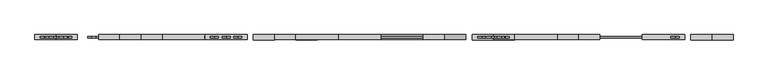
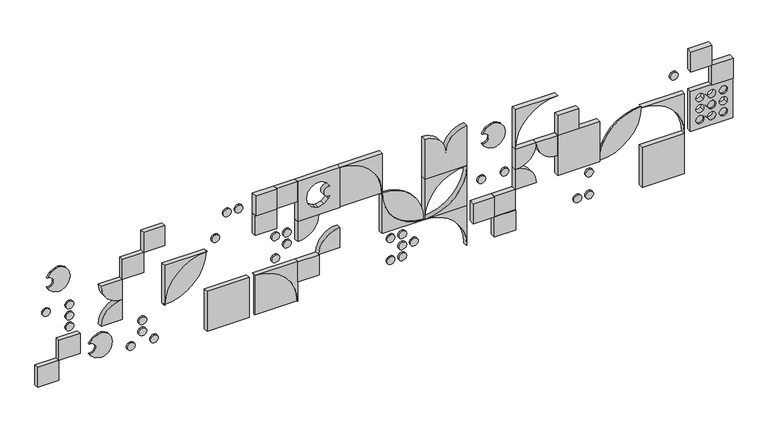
"""IFC4 building model written with IfcOpenShell, lengths in millimetres: proxy geometry, Modelos genéricos - (reduzido)PAINEL VAZADO - 90CM - (reduzido)PAINEL VAZADO - 90CM."""

from ifc_helpers import new_model, si_unit, point, frame, frame_2d, origin, place, context, project, spatial, polyline, circle_curve, trimmed, segment, composite_curve, outline, extrude, source, transform, mapped, element, save
from ifc_brep_helpers import plane_surface, revolved_surface, advanced_brep


def generic_models_b1f84769(model_context):
    return source(origin(), model_context, "Body", "SolidModel", [
        advanced_brep(
        [(6450.0, -50.0, 450.0), (6030.0, -50.0, 870.0), (6030.0, 0.0, 870.0), (6450.0, 0.0, 450.0), (6450.0, -50.0, 870.0), (6450.0, 0.0, 870.0)],
        [
            (0, 1, circle_curve(frame((6030.0, -50.0, 450.0), z_axis=(0.0, -1.0, 0.0), x_axis=(-1.0, 0.0, 0.0)), 420.0)),
            (1, 2),
            (2, 3, circle_curve(frame((6030.0, 0.0, 450.0), z_axis=(0.0, 1.0, 0.0), x_axis=(-1.0, 0.0, 0.0)), 420.0)),
            (3, 0),
            (4, 0),
            (3, 5),
            (5, 4),
            (1, 4),
            (5, 2),
        ],
        [
            revolved_surface(polyline([(5610.0, 0.0, 450.0), (5610.0, -50.0, 450.0)]), (6030.0, -50.0, 450.0), (0.0, 1.0, 0.0)),
            plane_surface(frame((6450.0, -50.0, 870.0), z_axis=(1.0, 0.0, 0.0), x_axis=(0.0, 0.0, -1.0))),
            plane_surface(frame((6030.0, -50.0, 870.0), z_axis=(0.0, 0.0, 1.0), x_axis=(1.0, 0.0, 0.0))),
            plane_surface(frame((6310.0, 0.0, 730.0), z_axis=(0.0, 1.0, 0.0), x_axis=(1.0, 0.0, 0.0))),
            plane_surface(frame((6310.0, -50.0, 730.0), z_axis=(0.0, -1.0, 0.0), x_axis=(1.0, 0.0, 0.0))),
        ],
        [
            (0, [[1, 2, 3, 4]]),
            (1, [[5, -4, 6, 7]]),
            (2, [[8, -7, 9, -2]]),
            (3, [[-9, -6, -3]]),
            (4, [[-8, -1, -5]]),
        ],
    ),
        extrude(outline(composite_curve([segment(polyline([(870.0, 5190.0), (870.0, 4980.0)]), True, "CONTINUOUS"), segment(trimmed(circle_curve(frame_2d((870.0, 5190.0)), 210.0), [point((870.0, 4980.0))], [point((660.0, 5190.0))], False, "CARTESIAN"), True, "CONTINUOUS"), segment(polyline([(660.0, 5190.0), (870.0, 5190.0)]), True, "CONTINUOUS")], self_intersect=False)), frame((0.0, -50.0, 0.0), z_axis=(0.0, 1.0, 0.0), x_axis=(0.0, 0.0, 1.0)), (0.0, 0.0, 1.0), 50.0),
        extrude(outline(composite_curve([segment(trimmed(circle_curve(frame_2d((355.9383616, 5515.9383616)), 40.0), [point((395.9383616, 5515.9383616))], [point((315.9383616, 5515.9383616))], False, "CARTESIAN"), True, "CONTINUOUS"), segment(trimmed(circle_curve(frame_2d((355.9383616, 5515.9383616)), 40.0), [point((315.9383616, 5515.9383616))], [point((395.9383616, 5515.9383616))], False, "CARTESIAN"), True, "CONTINUOUS")], self_intersect=False)), frame((0.0, -35.0, 0.0), z_axis=(0.0, 1.0, 0.0), x_axis=(0.0, 0.0, 1.0)), (0.0, 0.0, 1.0), 15.0),
        extrude(outline(composite_curve([segment(trimmed(circle_curve(frame_2d((544.953472, 2400.0)), 40.0), [point((584.953472, 2400.0))], [point((504.953472, 2400.0))], False, "CARTESIAN"), True, "CONTINUOUS"), segment(trimmed(circle_curve(frame_2d((544.953472, 2400.0)), 40.0), [point((504.953472, 2400.0))], [point((584.953472, 2400.0))], False, "CARTESIAN"), True, "CONTINUOUS")], self_intersect=False)), frame((0.0, -35.0, 0.0), z_axis=(0.0, 1.0, 0.0), x_axis=(0.0, 0.0, 1.0)), (0.0, 0.0, 1.0), 15.0),
        extrude(outline(composite_curve([segment(trimmed(circle_curve(frame_2d((660.0, 4444.0616384)), 40.0), [point((700.0, 4444.0616384))], [point((620.0, 4444.0616384))], False, "CARTESIAN"), True, "CONTINUOUS"), segment(trimmed(circle_curve(frame_2d((660.0, 4444.0616384)), 40.0), [point((620.0, 4444.0616384))], [point((700.0, 4444.0616384))], False, "CARTESIAN"), True, "CONTINUOUS")], self_intersect=False)), frame((0.0, -35.0, 0.0), z_axis=(0.0, 1.0, 0.0), x_axis=(0.0, 0.0, 1.0)), (0.0, 0.0, 1.0), 15.0),
        extrude(outline(composite_curve([segment(trimmed(circle_curve(frame_2d((450.0, 870.0)), 210.0), [point((660.0, 870.0))], [point((450.0, 660.0))], False, "CARTESIAN"), True, "CONTINUOUS"), segment(polyline([(450.0, 660.0), (450.0, 870.0), (660.0, 870.0)]), True, "CONTINUOUS")], self_intersect=False)), frame((0.0, -50.0, 0.0), z_axis=(0.0, 1.0, 0.0), x_axis=(0.0, 0.0, 1.0)), (0.0, 0.0, 1.0), 50.0),
        advanced_brep(
        [(2190.0, -50.0, 450.0), (2610.0, -50.0, 450.0), (2610.0, 0.0, 450.0), (2190.0, 0.0, 450.0), (2610.0, -50.0, 30.0), (2610.0, 0.0, 30.0)],
        [
            (0, 1),
            (1, 2),
            (2, 3),
            (3, 0),
            (4, 0, circle_curve(frame((2190.0, -50.0, 30.0), z_axis=(0.0, -1.0, 0.0), x_axis=(0.0, 0.0, -1.0)), 420.0)),
            (3, 5, circle_curve(frame((2190.0, 0.0, 30.0), z_axis=(0.0, 1.0, 0.0), x_axis=(0.0, 0.0, -1.0)), 420.0)),
            (5, 4),
            (1, 4),
            (5, 2),
        ],
        [
            plane_surface(frame((2190.0, -50.0, 450.0), z_axis=(0.0, 0.0, 1.0), x_axis=(1.0, 0.0, 0.0))),
            revolved_surface(polyline([(2190.0, 0.0, -390.0), (2190.0, -50.0, -390.0)]), (2190.0, -50.0, 30.0), (0.0, 1.0, 0.0)),
            plane_surface(frame((2610.0, -50.0, 450.0), z_axis=(1.0, 0.0, 0.0), x_axis=(0.0, 0.0, -1.0))),
            plane_surface(frame((2470.0, -50.0, 310.0), z_axis=(0.0, -1.0, 0.0), x_axis=(0.0, 0.0, -1.0))),
            plane_surface(frame((2470.0, 0.0, 310.0), z_axis=(0.0, 1.0, 0.0), x_axis=(0.0, 0.0, -1.0))),
        ],
        [
            (0, [[1, 2, 3, 4]]),
            (1, [[5, -4, 6, 7]]),
            (2, [[8, -7, 9, -2]]),
            (3, [[-8, -1, -5]]),
            (4, [[-9, -6, -3]]),
        ],
    ),
        extrude(outline(composite_curve([segment(trimmed(circle_curve(frame_2d((1195.9383616, 1920.0)), 40.0), [point((1235.9383616, 1920.0))], [point((1155.9383616, 1920.0))], False, "CARTESIAN"), True, "CONTINUOUS"), segment(trimmed(circle_curve(frame_2d((1195.9383616, 1920.0)), 40.0), [point((1155.9383616, 1920.0))], [point((1235.9383616, 1920.0))], False, "CARTESIAN"), True, "CONTINUOUS")], self_intersect=False)), frame((0.0, -35.0, 0.0), z_axis=(0.0, 1.0, 0.0), x_axis=(0.0, 0.0, 1.0)), (0.0, 0.0, 1.0), 15.0),
        extrude(outline(composite_curve([segment(polyline([(191.7379869, 549.9753005), (165.8151142, 564.8058499), (127.5874629, 609.985838), (113.8707109, 667.3986814), (117.0988556, 692.1601848), (141.9608946, 736.7788723), (186.7607408, 767.655962), (242.6252354, 778.6758678), (298.4897299, 767.655962), (343.2895761, 736.7788723), (368.1516151, 692.1601848), (371.3797598, 667.3986814), (367.9264934, 637.9915265), (341.4018473, 585.4023287), (293.9674777, 550.1706919)]), True, "CONTINUOUS"), segment(trimmed(circle_curve(frame_2d((242.8329614, 560.4172169)), 52.151031), [point((293.9674777, 550.1706919))], [point((191.7379869, 549.9753005))], True, "CARTESIAN"), True, "CONTINUOUS")], self_intersect=False)), frame((0.0, -35.0, 0.0), z_axis=(0.0, 1.0, 0.0), x_axis=(0.0, 0.0, 1.0)), (0.0, 0.0, 1.0), 15.0),
        extrude(outline(polyline([(450.0, 6930.0), (870.0, 6930.0), (870.0, 6510.0), (450.0, 6510.0), (450.0, 6930.0)]), holes=[composite_curve([segment(trimmed(circle_curve(frame_2d((660.0, 6604.0616384)), 40.0), [point((683.5114101, 6571.7009587))], [point((636.4885899, 6636.4223182))], True, "CARTESIAN"), True, "CONTINUOUS"), segment(trimmed(circle_curve(frame_2d((660.0, 6604.0616384)), 40.0), [point((636.4885899, 6636.4223182))], [point((683.5114101, 6571.7009587))], True, "CARTESIAN"), True, "CONTINUOUS")], self_intersect=False), composite_curve([segment(trimmed(circle_curve(frame_2d((544.953472, 6835.9383616)), 40.0), [point((521.4420619, 6868.2990413))], [point((568.4648821, 6803.5776818))], True, "CARTESIAN"), True, "CONTINUOUS"), segment(trimmed(circle_curve(frame_2d((544.953472, 6835.9383616)), 40.0), [point((568.4648821, 6803.5776818))], [point((521.4420619, 6868.2990413))], True, "CARTESIAN"), True, "CONTINUOUS")], self_intersect=False), composite_curve([segment(trimmed(circle_curve(frame_2d((775.9383616, 6835.9383616)), 40.0), [point((752.4269515, 6868.2990413))], [point((799.4497717, 6803.5776818))], True, "CARTESIAN"), True, "CONTINUOUS"), segment(trimmed(circle_curve(frame_2d((775.9383616, 6835.9383616)), 40.0), [point((799.4497717, 6803.5776818))], [point((752.4269515, 6868.2990413))], True, "CARTESIAN"), True, "CONTINUOUS")], self_intersect=False), composite_curve([segment(trimmed(circle_curve(frame_2d((660.0, 6720.0)), 40.0), [point((627.6393202, 6696.4885899))], [point((692.3606798, 6743.5114101))], True, "CARTESIAN"), True, "CONTINUOUS"), segment(trimmed(circle_curve(frame_2d((660.0, 6720.0)), 40.0), [point((692.3606798, 6743.5114101))], [point((627.6393202, 6696.4885899))], True, "CARTESIAN"), True, "CONTINUOUS")], self_intersect=False), composite_curve([segment(trimmed(circle_curve(frame_2d((544.953472, 6720.0)), 40.0), [point((512.5927922, 6696.4885899))], [point((577.3141518, 6743.5114101))], True, "CARTESIAN"), True, "CONTINUOUS"), segment(trimmed(circle_curve(frame_2d((544.953472, 6720.0)), 40.0), [point((577.3141518, 6743.5114101))], [point((512.5927922, 6696.4885899))], True, "CARTESIAN"), True, "CONTINUOUS")], self_intersect=False), composite_curve([segment(trimmed(circle_curve(frame_2d((775.9383616, 6720.0)), 40.0), [point((743.5776818, 6696.4885899))], [point((808.2990413, 6743.5114101))], True, "CARTESIAN"), True, "CONTINUOUS"), segment(trimmed(circle_curve(frame_2d((775.9383616, 6720.0)), 40.0), [point((808.2990413, 6743.5114101))], [point((743.5776818, 6696.4885899))], True, "CARTESIAN"), True, "CONTINUOUS")], self_intersect=False), composite_curve([segment(trimmed(circle_curve(frame_2d((660.0, 6835.9383616)), 40.0), [point((636.4885899, 6868.2990413))], [point((683.5114101, 6803.5776818))], True, "CARTESIAN"), True, "CONTINUOUS"), segment(trimmed(circle_curve(frame_2d((660.0, 6835.9383616)), 40.0), [point((683.5114101, 6803.5776818))], [point((636.4885899, 6868.2990413))], True, "CARTESIAN"), True, "CONTINUOUS")], self_intersect=False), composite_curve([segment(trimmed(circle_curve(frame_2d((775.9383616, 6604.0616384)), 40.0), [point((799.4497717, 6571.7009587))], [point((752.4269515, 6636.4223182))], True, "CARTESIAN"), True, "CONTINUOUS"), segment(trimmed(circle_curve(frame_2d((775.9383616, 6604.0616384)), 40.0), [point((752.4269515, 6636.4223182))], [point((799.4497717, 6571.7009587))], True, "CARTESIAN"), True, "CONTINUOUS")], self_intersect=False), composite_curve([segment(trimmed(circle_curve(frame_2d((544.953472, 6604.0616384)), 40.0), [point((568.4648821, 6571.7009587))], [point((521.4420619, 6636.4223182))], True, "CARTESIAN"), True, "CONTINUOUS"), segment(trimmed(circle_curve(frame_2d((544.953472, 6604.0616384)), 40.0), [point((521.4420619, 6636.4223182))], [point((568.4648821, 6571.7009587))], True, "CARTESIAN"), True, "CONTINUOUS")], self_intersect=False)]), frame((0.0, -50.0, 0.0), z_axis=(0.0, 1.0, 0.0), x_axis=(0.0, 0.0, 1.0)), (0.0, 0.0, 1.0), 50.0),
        extrude(outline(polyline([(6720.0, -55.0), (6720.0, 0.0), (6930.0, 0.0), (6930.0, -55.0), (6720.0, -55.0)])), frame((0.0, 0.0, 870.0), z_axis=(0.0, 0.0, 1.0), x_axis=(1.0, 0.0, 0.0)), (0.0, 0.0, 1.0), 210.0),
        extrude(outline(composite_curve([segment(polyline([(450.0, 3870.0), (450.0, 4290.0), (870.0, 4290.0)]), True, "CONTINUOUS"), segment(trimmed(circle_curve(frame_2d((870.0, 3870.0)), 420.0), [point((870.0, 4290.0))], [point((450.0, 3870.0))], True, "CARTESIAN"), True, "CONTINUOUS")], self_intersect=False)), frame((0.0, -50.0, 0.0), z_axis=(0.0, 1.0, 0.0), x_axis=(0.0, 0.0, 1.0)), (0.0, 0.0, 1.0), 50.0),
        extrude(outline(composite_curve([segment(trimmed(circle_curve(frame_2d((450.0, 6030.0)), 420.0), [point((870.0, 6030.0))], [point((450.0, 5610.0))], False, "CARTESIAN"), True, "CONTINUOUS"), segment(trimmed(circle_curve(frame_2d((870.0, 5610.0)), 420.0), [point((450.0, 5610.0))], [point((870.0, 6030.0))], False, "CARTESIAN"), True, "CONTINUOUS")], self_intersect=False)), frame((0.0, -35.0, 0.0), z_axis=(0.0, 1.0, 0.0), x_axis=(0.0, 0.0, 1.0)), (0.0, 0.0, 1.0), 15.0),
        extrude(outline(composite_curve([segment(trimmed(circle_curve(frame_2d((355.9383616, 3544.0616384)), 40.0), [point((395.9383616, 3544.0616384))], [point((315.9383616, 3544.0616384))], False, "CARTESIAN"), True, "CONTINUOUS"), segment(trimmed(circle_curve(frame_2d((355.9383616, 3544.0616384)), 40.0), [point((315.9383616, 3544.0616384))], [point((395.9383616, 3544.0616384))], False, "CARTESIAN"), True, "CONTINUOUS")], self_intersect=False)), frame((0.0, -35.0, 0.0), z_axis=(0.0, 1.0, 0.0), x_axis=(0.0, 0.0, 1.0)), (0.0, 0.0, 1.0), 15.0),
        extrude(outline(composite_curve([segment(trimmed(circle_curve(frame_2d((30.0, 2190.0)), 420.0), [point((30.0, 2610.0))], [point((450.0, 2190.0))], False, "CARTESIAN"), True, "CONTINUOUS"), segment(polyline([(450.0, 2190.0), (30.0, 2190.0), (30.0, 2610.0)]), True, "CONTINUOUS")], self_intersect=False)), frame((0.0, -35.0, 0.0), z_axis=(0.0, 1.0, 0.0), x_axis=(0.0, 0.0, 1.0)), (0.0, 0.0, 1.0), 15.0),
        extrude(outline(polyline([(1290.0, 3030.0), (1290.0, 2610.0), (870.0, 2610.0), (870.0, 3030.0), (1290.0, 3030.0)]), holes=[composite_curve([segment(polyline([(1208.1516151, 2787.8398152), (1211.3797598, 2812.6013186), (1207.9264934, 2842.0084735), (1181.4018473, 2894.5976713), (1133.9674777, 2929.8293081)]), True, "CONTINUOUS"), segment(trimmed(circle_curve(frame_2d((1082.8329614, 2919.5827831)), 52.151031), [point((1133.9674777, 2929.8293081))], [point((1031.7379869, 2930.0246995))], False, "CARTESIAN"), True, "CONTINUOUS"), segment(polyline([(1031.7379869, 2930.0246995), (1005.8151142, 2915.1941501), (967.5874629, 2870.014162), (953.8707109, 2812.6013186), (957.0988556, 2787.8398152), (981.9608946, 2743.2211277), (1026.7607408, 2712.344038), (1082.6252354, 2701.3241322), (1138.4897299, 2712.344038), (1183.2895761, 2743.2211277), (1208.1516151, 2787.8398152)]), True, "CONTINUOUS")], self_intersect=False)]), frame((0.0, -50.0, 0.0), z_axis=(0.0, 1.0, 0.0), x_axis=(0.0, 0.0, 1.0)), (0.0, 0.0, 1.0), 50.0),
        extrude(outline(composite_curve([segment(trimmed(circle_curve(frame_2d((124.953472, 3660.0)), 40.0), [point((164.953472, 3660.0))], [point((84.953472, 3660.0))], False, "CARTESIAN"), True, "CONTINUOUS"), segment(trimmed(circle_curve(frame_2d((124.953472, 3660.0)), 40.0), [point((84.953472, 3660.0))], [point((164.953472, 3660.0))], False, "CARTESIAN"), True, "CONTINUOUS")], self_intersect=False)), frame((0.0, -35.0, 0.0), z_axis=(0.0, 1.0, 0.0), x_axis=(0.0, 0.0, 1.0)), (0.0, 0.0, 1.0), 15.0),
        extrude(outline(composite_curve([segment(trimmed(circle_curve(frame_2d((124.953472, 5515.9383616)), 40.0), [point((164.953472, 5515.9383616))], [point((84.953472, 5515.9383616))], False, "CARTESIAN"), True, "CONTINUOUS"), segment(trimmed(circle_curve(frame_2d((124.953472, 5515.9383616)), 40.0), [point((84.953472, 5515.9383616))], [point((164.953472, 5515.9383616))], False, "CARTESIAN"), True, "CONTINUOUS")], self_intersect=False)), frame((0.0, -35.0, 0.0), z_axis=(0.0, 1.0, 0.0), x_axis=(0.0, 0.0, 1.0)), (0.0, 0.0, 1.0), 15.0),
        extrude(outline(composite_curve([segment(trimmed(circle_curve(frame_2d((544.953472, 6835.9383616)), 40.0), [point((584.953472, 6835.9383616))], [point((504.953472, 6835.9383616))], False, "CARTESIAN"), True, "CONTINUOUS"), segment(trimmed(circle_curve(frame_2d((544.953472, 6835.9383616)), 40.0), [point((504.953472, 6835.9383616))], [point((584.953472, 6835.9383616))], False, "CARTESIAN"), True, "CONTINUOUS")], self_intersect=False)), frame((0.0, -35.0, 0.0), z_axis=(0.0, 1.0, 0.0), x_axis=(0.0, 0.0, 1.0)), (0.0, 0.0, 1.0), 15.0),
        extrude(outline(polyline([(4350.0, -55.0), (4350.0, 0.0), (4560.0, 0.0), (4560.0, -55.0), (4350.0, -55.0)])), frame((0.0, 0.0, 240.0), z_axis=(0.0, 0.0, 1.0), x_axis=(1.0, 0.0, 0.0)), (0.0, 0.0, 1.0), 210.0),
        extrude(outline(polyline([(2610.0, -55.0), (2610.0, 0.0), (2820.0, 0.0), (2820.0, -55.0), (2610.0, -55.0)])), frame((0.0, 0.0, 240.0), z_axis=(0.0, 0.0, 1.0), x_axis=(1.0, 0.0, 0.0)), (0.0, 0.0, 1.0), 210.0),
        extrude(outline(composite_curve([segment(trimmed(circle_curve(frame_2d((964.953472, 1804.0616384)), 40.0), [point((1004.953472, 1804.0616384))], [point((924.953472, 1804.0616384))], False, "CARTESIAN"), True, "CONTINUOUS"), segment(trimmed(circle_curve(frame_2d((964.953472, 1804.0616384)), 40.0), [point((924.953472, 1804.0616384))], [point((1004.953472, 1804.0616384))], False, "CARTESIAN"), True, "CONTINUOUS")], self_intersect=False)), frame((0.0, -35.0, 0.0), z_axis=(0.0, 1.0, 0.0), x_axis=(0.0, 0.0, 1.0)), (0.0, 0.0, 1.0), 15.0),
        extrude(outline(composite_curve([segment(polyline([(1031.7379869, 4449.9753005), (1005.8151142, 4464.8058499), (967.5874629, 4509.985838), (953.8707109, 4567.3986814), (957.0988556, 4592.1601848), (981.9608946, 4636.7788723), (1026.7607408, 4667.655962), (1082.6252354, 4678.6758678), (1138.4897299, 4667.655962), (1183.2895761, 4636.7788723), (1208.1516151, 4592.1601848), (1211.3797598, 4567.3986814), (1207.9264934, 4537.9915265), (1181.4018473, 4485.4023287), (1133.9674777, 4450.1706919)]), True, "CONTINUOUS"), segment(trimmed(circle_curve(frame_2d((1082.8329614, 4460.4172169)), 52.151031), [point((1133.9674777, 4450.1706919))], [point((1031.7379869, 4449.9753005))], True, "CARTESIAN"), True, "CONTINUOUS")], self_intersect=False)), frame((0.0, -35.0, 0.0), z_axis=(0.0, 1.0, 0.0), x_axis=(0.0, 0.0, 1.0)), (0.0, 0.0, 1.0), 15.0),
        extrude(outline(composite_curve([segment(trimmed(circle_curve(frame_2d((124.953472, 964.0616384)), 40.0), [point((164.953472, 964.0616384))], [point((84.953472, 964.0616384))], False, "CARTESIAN"), True, "CONTINUOUS"), segment(trimmed(circle_curve(frame_2d((124.953472, 964.0616384)), 40.0), [point((84.953472, 964.0616384))], [point((164.953472, 964.0616384))], False, "CARTESIAN"), True, "CONTINUOUS")], self_intersect=False)), frame((0.0, -35.0, 0.0), z_axis=(0.0, 1.0, 0.0), x_axis=(0.0, 0.0, 1.0)), (0.0, 0.0, 1.0), 15.0),
        advanced_brep(
        [(4290.0, -50.0, 870.0), (3870.0, -50.0, 450.0), (3870.0, 0.0, 450.0), (4290.0, 0.0, 870.0), (3870.0, -50.0, 870.0), (3870.0, 0.0, 870.0)],
        [
            (0, 1, circle_curve(frame((4290.0, -50.0, 450.0), z_axis=(0.0, -1.0, 0.0), x_axis=(0.0, 0.0, -1.0)), 420.0)),
            (1, 2),
            (2, 3, circle_curve(frame((4290.0, 0.0, 450.0), z_axis=(0.0, 1.0, 0.0), x_axis=(0.0, 0.0, -1.0)), 420.0)),
            (3, 0),
            (4, 0),
            (3, 5),
            (5, 4),
            (1, 4),
            (5, 2),
        ],
        [
            revolved_surface(polyline([(4290.0, 0.0, 30.0), (4290.0, -50.0, 30.0)]), (4290.0, -50.0, 450.0), (0.0, 1.0, 0.0)),
            plane_surface(frame((3870.0, -50.0, 870.0), z_axis=(0.0, 0.0, 1.0), x_axis=(1.0, 0.0, 0.0))),
            plane_surface(frame((3870.0, -50.0, 450.0), z_axis=(-1.0, 0.0, 0.0), x_axis=(0.0, 0.0, 1.0))),
            plane_surface(frame((4010.0, 0.0, 730.0), z_axis=(0.0, 1.0, 0.0), x_axis=(0.0, 0.0, 1.0))),
            plane_surface(frame((4010.0, -50.0, 730.0), z_axis=(0.0, -1.0, 0.0), x_axis=(0.0, 0.0, 1.0))),
        ],
        [
            (0, [[1, 2, 3, 4]]),
            (1, [[5, -4, 6, 7]]),
            (2, [[8, -7, 9, -2]]),
            (3, [[-9, -6, -3]]),
            (4, [[-8, -1, -5]]),
        ],
    ),
        extrude(outline(polyline([(240.0, -50.0), (240.0, 0.0), (450.0, 0.0), (450.0, -50.0), (240.0, -50.0)])), frame((0.0, 0.0, 240.0), z_axis=(0.0, 0.0, 1.0), x_axis=(1.0, 0.0, 0.0)), (0.0, 0.0, 1.0), 210.0),
        extrude(outline(composite_curve([segment(polyline([(870.0, 870.0), (870.0, 660.0)]), True, "CONTINUOUS"), segment(trimmed(circle_curve(frame_2d((870.0, 870.0)), 210.0), [point((870.0, 660.0))], [point((660.0, 870.0))], False, "CARTESIAN"), True, "CONTINUOUS"), segment(polyline([(660.0, 870.0), (870.0, 870.0)]), True, "CONTINUOUS")], self_intersect=False)), frame((0.0, -50.0, 0.0), z_axis=(0.0, 1.0, 0.0), x_axis=(0.0, 0.0, 1.0)), (0.0, 0.0, 1.0), 50.0),
        extrude(outline(composite_curve([segment(trimmed(circle_curve(frame_2d((775.9383616, 124.0616384)), 40.0), [point((815.9383616, 124.0616384))], [point((735.9383616, 124.0616384))], False, "CARTESIAN"), True, "CONTINUOUS"), segment(trimmed(circle_curve(frame_2d((775.9383616, 124.0616384)), 40.0), [point((735.9383616, 124.0616384))], [point((815.9383616, 124.0616384))], False, "CARTESIAN"), True, "CONTINUOUS")], self_intersect=False)), frame((0.0, -35.0, 0.0), z_axis=(0.0, 1.0, 0.0), x_axis=(0.0, 0.0, 1.0)), (0.0, 0.0, 1.0), 15.0),
        extrude(outline(composite_curve([segment(trimmed(circle_curve(frame_2d((124.953472, 3544.0616384)), 40.0), [point((164.953472, 3544.0616384))], [point((84.953472, 3544.0616384))], False, "CARTESIAN"), True, "CONTINUOUS"), segment(trimmed(circle_curve(frame_2d((124.953472, 3544.0616384)), 40.0), [point((84.953472, 3544.0616384))], [point((164.953472, 3544.0616384))], False, "CARTESIAN"), True, "CONTINUOUS")], self_intersect=False)), frame((0.0, -35.0, 0.0), z_axis=(0.0, 1.0, 0.0), x_axis=(0.0, 0.0, 1.0)), (0.0, 0.0, 1.0), 15.0),
        extrude(outline(composite_curve([segment(trimmed(circle_curve(frame_2d((240.0, 3775.9383616)), 40.0), [point((280.0, 3775.9383616))], [point((200.0, 3775.9383616))], False, "CARTESIAN"), True, "CONTINUOUS"), segment(trimmed(circle_curve(frame_2d((240.0, 3775.9383616)), 40.0), [point((200.0, 3775.9383616))], [point((280.0, 3775.9383616))], False, "CARTESIAN"), True, "CONTINUOUS")], self_intersect=False)), frame((0.0, -35.0, 0.0), z_axis=(0.0, 1.0, 0.0), x_axis=(0.0, 0.0, 1.0)), (0.0, 0.0, 1.0), 15.0),
        extrude(outline(polyline([(5190.0, -50.0), (5190.0, 0.0), (5610.0, 0.0), (5610.0, -50.0), (5190.0, -50.0)])), frame((0.0, 0.0, 450.0), z_axis=(0.0, 0.0, 1.0), x_axis=(1.0, 0.0, 0.0)), (0.0, 0.0, 1.0), 420.0),
        extrude(outline(composite_curve([segment(trimmed(circle_curve(frame_2d((240.0, 1080.0)), 40.0), [point((280.0, 1080.0))], [point((200.0, 1080.0))], False, "CARTESIAN"), True, "CONTINUOUS"), segment(trimmed(circle_curve(frame_2d((240.0, 1080.0)), 40.0), [point((200.0, 1080.0))], [point((280.0, 1080.0))], False, "CARTESIAN"), True, "CONTINUOUS")], self_intersect=False)), frame((0.0, -35.0, 0.0), z_axis=(0.0, 1.0, 0.0), x_axis=(0.0, 0.0, 1.0)), (0.0, 0.0, 1.0), 15.0),
        extrude(outline(composite_curve([segment(trimmed(circle_curve(frame_2d((660.0, 355.9383616)), 40.0), [point((700.0, 355.9383616))], [point((620.0, 355.9383616))], False, "CARTESIAN"), True, "CONTINUOUS"), segment(trimmed(circle_curve(frame_2d((660.0, 355.9383616)), 40.0), [point((620.0, 355.9383616))], [point((700.0, 355.9383616))], False, "CARTESIAN"), True, "CONTINUOUS")], self_intersect=False)), frame((0.0, -35.0, 0.0), z_axis=(0.0, 1.0, 0.0), x_axis=(0.0, 0.0, 1.0)), (0.0, 0.0, 1.0), 15.0),
        extrude(outline(composite_curve([segment(trimmed(circle_curve(frame_2d((124.953472, 1195.9383616)), 40.0), [point((164.953472, 1195.9383616))], [point((84.953472, 1195.9383616))], False, "CARTESIAN"), True, "CONTINUOUS"), segment(trimmed(circle_curve(frame_2d((124.953472, 1195.9383616)), 40.0), [point((84.953472, 1195.9383616))], [point((164.953472, 1195.9383616))], False, "CARTESIAN"), True, "CONTINUOUS")], self_intersect=False)), frame((0.0, -35.0, 0.0), z_axis=(0.0, 1.0, 0.0), x_axis=(0.0, 0.0, 1.0)), (0.0, 0.0, 1.0), 15.0),
        extrude(outline(composite_curve([segment(trimmed(circle_curve(frame_2d((450.0, 1710.0)), 420.0), [point((870.0, 1710.0))], [point((450.0, 1290.0))], False, "CARTESIAN"), True, "CONTINUOUS"), segment(trimmed(circle_curve(frame_2d((870.0, 1290.0)), 420.0), [point((450.0, 1290.0))], [point((870.0, 1710.0))], False, "CARTESIAN"), True, "CONTINUOUS")], self_intersect=False)), frame((0.0, -35.0, 0.0), z_axis=(0.0, 1.0, 0.0), x_axis=(0.0, 0.0, 1.0)), (0.0, 0.0, 1.0), 15.0),
        extrude(outline(composite_curve([segment(trimmed(circle_curve(frame_2d((870.0, 4770.0)), 210.0), [point((660.0, 4770.0))], [point((870.0, 4980.0))], False, "CARTESIAN"), True, "CONTINUOUS"), segment(polyline([(870.0, 4980.0), (870.0, 4770.0), (660.0, 4770.0)]), True, "CONTINUOUS")], self_intersect=False)), frame((0.0, -50.0, 0.0), z_axis=(0.0, 1.0, 0.0), x_axis=(0.0, 0.0, 1.0)), (0.0, 0.0, 1.0), 50.0),
        extrude(outline(composite_curve([segment(polyline([(1031.7379869, 129.9753005), (1005.8151142, 144.8058499), (967.5874629, 189.985838), (953.8707109, 247.3986814), (957.0988556, 272.1601848), (981.9608946, 316.7788723), (1026.7607408, 347.655962), (1082.6252354, 358.6758678), (1138.4897299, 347.655962), (1183.2895761, 316.7788723), (1208.1516151, 272.1601848), (1211.3797598, 247.3986814), (1207.9264934, 217.9915265), (1181.4018473, 165.4023287), (1133.9674777, 130.1706919)]), True, "CONTINUOUS"), segment(trimmed(circle_curve(frame_2d((1082.8329614, 140.4172169)), 52.151031), [point((1133.9674777, 130.1706919))], [point((1031.7379869, 129.9753005))], True, "CARTESIAN"), True, "CONTINUOUS")], self_intersect=False)), frame((0.0, -35.0, 0.0), z_axis=(0.0, 1.0, 0.0), x_axis=(0.0, 0.0, 1.0)), (0.0, 0.0, 1.0), 15.0),
        extrude(outline(polyline([(6030.0, -50.0), (6030.0, 0.0), (6450.0, 0.0), (6450.0, -50.0), (6030.0, -50.0)])), frame((0.0, 0.0, 30.0), z_axis=(0.0, 0.0, 1.0), x_axis=(1.0, 0.0, 0.0)), (0.0, 0.0, 1.0), 420.0),
        extrude(outline(composite_curve([segment(trimmed(circle_curve(frame_2d((544.953472, 6604.0616384)), 40.0), [point((584.953472, 6604.0616384))], [point((504.953472, 6604.0616384))], False, "CARTESIAN"), True, "CONTINUOUS"), segment(trimmed(circle_curve(frame_2d((544.953472, 6604.0616384)), 40.0), [point((504.953472, 6604.0616384))], [point((584.953472, 6604.0616384))], False, "CARTESIAN"), True, "CONTINUOUS")], self_intersect=False)), frame((0.0, -35.0, 0.0), z_axis=(0.0, 1.0, 0.0), x_axis=(0.0, 0.0, 1.0)), (0.0, 0.0, 1.0), 15.0),
        extrude(outline(composite_curve([segment(trimmed(circle_curve(frame_2d((660.0, 2515.9383616)), 40.0), [point((700.0, 2515.9383616))], [point((620.0, 2515.9383616))], False, "CARTESIAN"), True, "CONTINUOUS"), segment(trimmed(circle_curve(frame_2d((660.0, 2515.9383616)), 40.0), [point((620.0, 2515.9383616))], [point((700.0, 2515.9383616))], False, "CARTESIAN"), True, "CONTINUOUS")], self_intersect=False)), frame((0.0, -35.0, 0.0), z_axis=(0.0, 1.0, 0.0), x_axis=(0.0, 0.0, 1.0)), (0.0, 0.0, 1.0), 15.0),
        extrude(outline(composite_curve([segment(trimmed(circle_curve(frame_2d((660.0, 4675.9383616)), 40.0), [point((700.0, 4675.9383616))], [point((620.0, 4675.9383616))], False, "CARTESIAN"), True, "CONTINUOUS"), segment(trimmed(circle_curve(frame_2d((660.0, 4675.9383616)), 40.0), [point((620.0, 4675.9383616))], [point((700.0, 4675.9383616))], False, "CARTESIAN"), True, "CONTINUOUS")], self_intersect=False)), frame((0.0, -35.0, 0.0), z_axis=(0.0, 1.0, 0.0), x_axis=(0.0, 0.0, 1.0)), (0.0, 0.0, 1.0), 15.0),
        advanced_brep(
        [(5190.0, -50.0, 1290.0), (4770.0, -50.0, 870.0), (4770.0, 0.0, 870.0), (5190.0, 0.0, 1290.0), (4770.0, -50.0, 1290.0), (4770.0, 0.0, 1290.0)],
        [
            (0, 1, circle_curve(frame((5190.0, -50.0, 870.0), z_axis=(0.0, -1.0, 0.0), x_axis=(0.0, 0.0, -1.0)), 420.0)),
            (1, 2),
            (2, 3, circle_curve(frame((5190.0, 0.0, 870.0), z_axis=(0.0, 1.0, 0.0), x_axis=(0.0, 0.0, -1.0)), 420.0)),
            (3, 0),
            (4, 0),
            (3, 5),
            (5, 4),
            (1, 4),
            (5, 2),
        ],
        [
            revolved_surface(polyline([(5190.0, 0.0, 450.0), (5190.0, -50.0, 450.0)]), (5190.0, -50.0, 870.0), (0.0, 1.0, 0.0)),
            plane_surface(frame((4770.0, -50.0, 1290.0), z_axis=(0.0, 0.0, 1.0), x_axis=(1.0, 0.0, 0.0))),
            plane_surface(frame((4770.0, -50.0, 870.0), z_axis=(-1.0, 0.0, 0.0), x_axis=(0.0, 0.0, 1.0))),
            plane_surface(frame((4910.0, 0.0, 1150.0), z_axis=(0.0, 1.0, 0.0), x_axis=(0.0, 0.0, 1.0))),
            plane_surface(frame((4910.0, -50.0, 1150.0), z_axis=(0.0, -1.0, 0.0), x_axis=(0.0, 0.0, 1.0))),
        ],
        [
            (0, [[1, 2, 3, 4]]),
            (1, [[5, -4, 6, 7]]),
            (2, [[8, -7, 9, -2]]),
            (3, [[-9, -6, -3]]),
            (4, [[-8, -1, -5]]),
        ],
    ),
        extrude(outline(composite_curve([segment(trimmed(circle_curve(frame_2d((775.9383616, 6835.9383616)), 40.0), [point((815.9383616, 6835.9383616))], [point((735.9383616, 6835.9383616))], False, "CARTESIAN"), True, "CONTINUOUS"), segment(trimmed(circle_curve(frame_2d((775.9383616, 6835.9383616)), 40.0), [point((735.9383616, 6835.9383616))], [point((815.9383616, 6835.9383616))], False, "CARTESIAN"), True, "CONTINUOUS")], self_intersect=False)), frame((0.0, -35.0, 0.0), z_axis=(0.0, 1.0, 0.0), x_axis=(0.0, 0.0, 1.0)), (0.0, 0.0, 1.0), 15.0),
        extrude(outline(polyline([(1710.0, -50.0), (1710.0, 0.0), (2130.0, 0.0), (2130.0, -50.0), (1710.0, -50.0)])), frame((0.0, 0.0, 30.0), z_axis=(0.0, 0.0, 1.0), x_axis=(1.0, 0.0, 0.0)), (0.0, 0.0, 1.0), 420.0),
        extrude(outline(polyline([(2190.0, -50.0), (2190.0, 0.0), (2400.0, 0.0), (2400.0, -50.0), (2190.0, -50.0)])), frame((0.0, 0.0, 870.0), z_axis=(0.0, 0.0, 1.0), x_axis=(1.0, 0.0, 0.0)), (0.0, 0.0, 1.0), 210.0),
        extrude(outline(composite_curve([segment(trimmed(circle_curve(frame_2d((1080.0, 4290.0)), 210.0), [point((1290.0, 4290.0))], [point((1080.0, 4080.0))], False, "CARTESIAN"), True, "CONTINUOUS"), segment(trimmed(circle_curve(frame_2d((1080.0, 3870.0)), 210.0), [point((1080.0, 4080.0))], [point((1290.0, 3870.0))], False, "CARTESIAN"), True, "CONTINUOUS"), segment(polyline([(1290.0, 3870.0), (870.0, 3870.0), (870.0, 4290.0), (1290.0, 4290.0)]), True, "CONTINUOUS")], self_intersect=False)), frame((0.0, -50.0, 0.0), z_axis=(0.0, 1.0, 0.0), x_axis=(0.0, 0.0, 1.0)), (0.0, 0.0, 1.0), 50.0),
        extrude(outline(polyline([(2400.0, -50.0), (2400.0, 0.0), (2610.0, 0.0), (2610.0, -50.0), (2400.0, -50.0)])), frame((0.0, 0.0, 1080.0), z_axis=(0.0, 0.0, 1.0), x_axis=(1.0, 0.0, 0.0)), (0.0, 0.0, 1.0), 210.0),
        extrude(outline(polyline([(870.0, -50.0), (870.0, 0.0), (1080.0, 0.0), (1080.0, -50.0), (870.0, -50.0)])), frame((0.0, 0.0, 870.0), z_axis=(0.0, 0.0, 1.0), x_axis=(1.0, 0.0, 0.0)), (0.0, 0.0, 1.0), 210.0),
        advanced_brep(
        [(4290.0, -50.0, 30.0), (3870.0, -50.0, 450.0), (3870.0, 0.0, 450.0), (4290.0, 0.0, 30.0), (4290.0, -50.0, 450.0), (4290.0, 0.0, 450.0)],
        [
            (0, 1, circle_curve(frame((3870.0, -50.0, 30.0), z_axis=(0.0, -1.0, 0.0), x_axis=(-1.0, 0.0, 0.0)), 420.0)),
            (1, 2),
            (2, 3, circle_curve(frame((3870.0, 0.0, 30.0), z_axis=(0.0, 1.0, 0.0), x_axis=(-1.0, 0.0, 0.0)), 420.0)),
            (3, 0),
            (4, 0),
            (3, 5),
            (5, 4),
            (1, 4),
            (5, 2),
        ],
        [
            revolved_surface(polyline([(3450.0, 0.0, 30.0), (3450.0, -50.0, 30.0)]), (3870.0, -50.0, 30.0), (0.0, 1.0, 0.0)),
            plane_surface(frame((4290.0, -50.0, 450.0), z_axis=(1.0, 0.0, 0.0), x_axis=(0.0, 0.0, -1.0))),
            plane_surface(frame((3870.0, -50.0, 450.0), z_axis=(0.0, 0.0, 1.0), x_axis=(1.0, 0.0, 0.0))),
            plane_surface(frame((4150.0, 0.0, 310.0), z_axis=(0.0, 1.0, 0.0), x_axis=(1.0, 0.0, 0.0))),
            plane_surface(frame((4150.0, -50.0, 310.0), z_axis=(0.0, -1.0, 0.0), x_axis=(1.0, 0.0, 0.0))),
        ],
        [
            (0, [[1, 2, 3, 4]]),
            (1, [[5, -4, 6, 7]]),
            (2, [[8, -7, 9, -2]]),
            (3, [[-9, -6, -3]]),
            (4, [[-8, -1, -5]]),
        ],
    ),
        extrude(outline(composite_curve([segment(trimmed(circle_curve(frame_2d((355.9383616, 3660.0)), 40.0), [point((395.9383616, 3660.0))], [point((315.9383616, 3660.0))], False, "CARTESIAN"), True, "CONTINUOUS"), segment(trimmed(circle_curve(frame_2d((355.9383616, 3660.0)), 40.0), [point((315.9383616, 3660.0))], [point((395.9383616, 3660.0))], False, "CARTESIAN"), True, "CONTINUOUS")], self_intersect=False)), frame((0.0, -35.0, 0.0), z_axis=(0.0, 1.0, 0.0), x_axis=(0.0, 0.0, 1.0)), (0.0, 0.0, 1.0), 15.0),
        extrude(outline(composite_curve([segment(trimmed(circle_curve(frame_2d((660.0, 6720.0)), 40.0), [point((700.0, 6720.0))], [point((620.0, 6720.0))], False, "CARTESIAN"), True, "CONTINUOUS"), segment(trimmed(circle_curve(frame_2d((660.0, 6720.0)), 40.0), [point((620.0, 6720.0))], [point((700.0, 6720.0))], False, "CARTESIAN"), True, "CONTINUOUS")], self_intersect=False)), frame((0.0, -35.0, 0.0), z_axis=(0.0, 1.0, 0.0), x_axis=(0.0, 0.0, 1.0)), (0.0, 0.0, 1.0), 15.0),
        extrude(outline(composite_curve([segment(polyline([(450.0, 4770.0), (450.0, 4980.0)]), True, "CONTINUOUS"), segment(trimmed(circle_curve(frame_2d((450.0, 4770.0)), 210.0), [point((450.0, 4980.0))], [point((660.0, 4770.0))], False, "CARTESIAN"), True, "CONTINUOUS"), segment(polyline([(660.0, 4770.0), (450.0, 4770.0)]), True, "CONTINUOUS")], self_intersect=False)), frame((0.0, -50.0, 0.0), z_axis=(0.0, 1.0, 0.0), x_axis=(0.0, 0.0, 1.0)), (0.0, 0.0, 1.0), 50.0),
        extrude(outline(composite_curve([segment(trimmed(circle_curve(frame_2d((775.9383616, 2400.0)), 40.0), [point((815.9383616, 2400.0))], [point((735.9383616, 2400.0))], False, "CARTESIAN"), True, "CONTINUOUS"), segment(trimmed(circle_curve(frame_2d((775.9383616, 2400.0)), 40.0), [point((735.9383616, 2400.0))], [point((815.9383616, 2400.0))], False, "CARTESIAN"), True, "CONTINUOUS")], self_intersect=False)), frame((0.0, -35.0, 0.0), z_axis=(0.0, 1.0, 0.0), x_axis=(0.0, 0.0, 1.0)), (0.0, 0.0, 1.0), 15.0),
        extrude(outline(polyline([(30.0, -50.0), (30.0, 0.0), (240.0, 0.0), (240.0, -50.0), (30.0, -50.0)])), frame((0.0, 0.0, 30.0), z_axis=(0.0, 0.0, 1.0), x_axis=(1.0, 0.0, 0.0)), (0.0, 0.0, 1.0), 210.0),
        extrude(outline(polyline([(6510.0, -55.0), (6510.0, 0.0), (6720.0, 0.0), (6720.0, -55.0), (6510.0, -55.0)])), frame((0.0, 0.0, 1080.0), z_axis=(0.0, 0.0, 1.0), x_axis=(1.0, 0.0, 0.0)), (0.0, 0.0, 1.0), 210.0),
        extrude(outline(composite_curve([segment(trimmed(circle_curve(frame_2d((450.0, 3450.0)), 420.0), [point((450.0, 3870.0))], [point((870.0, 3450.0))], False, "CARTESIAN"), True, "CONTINUOUS"), segment(trimmed(circle_curve(frame_2d((870.0, 3870.0)), 420.0), [point((870.0, 3450.0))], [point((450.0, 3870.0))], False, "CARTESIAN"), True, "CONTINUOUS")], self_intersect=False)), frame((0.0, -35.0, 0.0), z_axis=(0.0, 1.0, 0.0), x_axis=(0.0, 0.0, 1.0)), (0.0, 0.0, 1.0), 15.0),
        extrude(outline(composite_curve([segment(trimmed(circle_curve(frame_2d((775.9383616, 2515.9383616)), 40.0), [point((815.9383616, 2515.9383616))], [point((735.9383616, 2515.9383616))], False, "CARTESIAN"), True, "CONTINUOUS"), segment(trimmed(circle_curve(frame_2d((775.9383616, 2515.9383616)), 40.0), [point((735.9383616, 2515.9383616))], [point((815.9383616, 2515.9383616))], False, "CARTESIAN"), True, "CONTINUOUS")], self_intersect=False)), frame((0.0, -35.0, 0.0), z_axis=(0.0, 1.0, 0.0), x_axis=(0.0, 0.0, 1.0)), (0.0, 0.0, 1.0), 15.0),
        extrude(outline(composite_curve([segment(trimmed(circle_curve(frame_2d((240.0, 3660.0)), 40.0), [point((280.0, 3660.0))], [point((200.0, 3660.0))], False, "CARTESIAN"), True, "CONTINUOUS"), segment(trimmed(circle_curve(frame_2d((240.0, 3660.0)), 40.0), [point((200.0, 3660.0))], [point((280.0, 3660.0))], False, "CARTESIAN"), True, "CONTINUOUS")], self_intersect=False)), frame((0.0, -35.0, 0.0), z_axis=(0.0, 1.0, 0.0), x_axis=(0.0, 0.0, 1.0)), (0.0, 0.0, 1.0), 15.0),
        extrude(outline(composite_curve([segment(trimmed(circle_curve(frame_2d((1080.0, 6355.9383616)), 40.0), [point((1120.0, 6355.9383616))], [point((1040.0, 6355.9383616))], False, "CARTESIAN"), True, "CONTINUOUS"), segment(trimmed(circle_curve(frame_2d((1080.0, 6355.9383616)), 40.0), [point((1040.0, 6355.9383616))], [point((1120.0, 6355.9383616))], False, "CARTESIAN"), True, "CONTINUOUS")], self_intersect=False)), frame((0.0, -35.0, 0.0), z_axis=(0.0, 1.0, 0.0), x_axis=(0.0, 0.0, 1.0)), (0.0, 0.0, 1.0), 15.0),
        extrude(outline(composite_curve([segment(trimmed(circle_curve(frame_2d((870.0, 2610.0)), 210.0), [point((660.0, 2610.0))], [point((870.0, 2820.0))], False, "CARTESIAN"), True, "CONTINUOUS"), segment(polyline([(870.0, 2820.0), (870.0, 2610.0), (660.0, 2610.0)]), True, "CONTINUOUS")], self_intersect=False)), frame((0.0, -50.0, 0.0), z_axis=(0.0, 1.0, 0.0), x_axis=(0.0, 0.0, 1.0)), (0.0, 0.0, 1.0), 50.0),
        extrude(outline(composite_curve([segment(trimmed(circle_curve(frame_2d((355.9383616, 1080.0)), 40.0), [point((395.9383616, 1080.0))], [point((315.9383616, 1080.0))], False, "CARTESIAN"), True, "CONTINUOUS"), segment(trimmed(circle_curve(frame_2d((355.9383616, 1080.0)), 40.0), [point((315.9383616, 1080.0))], [point((395.9383616, 1080.0))], False, "CARTESIAN"), True, "CONTINUOUS")], self_intersect=False)), frame((0.0, -35.0, 0.0), z_axis=(0.0, 1.0, 0.0), x_axis=(0.0, 0.0, 1.0)), (0.0, 0.0, 1.0), 15.0),
        advanced_brep(
        [(3450.0, -50.0, 870.0), (3870.0, -50.0, 450.0), (3870.0, 0.0, 450.0), (3450.0, 0.0, 870.0), (3450.0, -50.0, 450.0), (3450.0, 0.0, 450.0)],
        [
            (0, 1, circle_curve(frame((3870.0, -50.0, 870.0), z_axis=(0.0, -1.0, 0.0), x_axis=(1.0, 0.0, 0.0)), 420.0)),
            (1, 2),
            (2, 3, circle_curve(frame((3870.0, 0.0, 870.0), z_axis=(0.0, 1.0, 0.0), x_axis=(1.0, 0.0, 0.0)), 420.0)),
            (3, 0),
            (4, 0),
            (3, 5),
            (5, 4),
            (1, 4),
            (5, 2),
        ],
        [
            revolved_surface(polyline([(4290.0, 0.0, 870.0), (4290.0, -50.0, 870.0)]), (3870.0, -50.0, 870.0), (0.0, 1.0, 0.0)),
            plane_surface(frame((3450.0, -50.0, 450.0), z_axis=(-1.0, 0.0, 0.0), x_axis=(0.0, 0.0, 1.0))),
            plane_surface(frame((3870.0, -50.0, 450.0), z_axis=(0.0, 0.0, -1.0), x_axis=(-1.0, 0.0, 0.0))),
            plane_surface(frame((3590.0, 0.0, 590.0), z_axis=(0.0, 1.0, 0.0), x_axis=(-1.0, 0.0, 0.0))),
            plane_surface(frame((3590.0, -50.0, 590.0), z_axis=(0.0, -1.0, 0.0), x_axis=(-1.0, 0.0, 0.0))),
        ],
        [
            (0, [[1, 2, 3, 4]]),
            (1, [[5, -4, 6, 7]]),
            (2, [[8, -7, 9, -2]]),
            (3, [[-9, -6, -3]]),
            (4, [[-8, -1, -5]]),
        ],
    ),
        advanced_brep(
        [(3030.0, -50.0, 1290.0), (3450.0, -50.0, 1290.0), (3450.0, 0.0, 1290.0), (3030.0, 0.0, 1290.0), (3450.0, -50.0, 870.0), (3450.0, 0.0, 870.0)],
        [
            (0, 1),
            (1, 2),
            (2, 3),
            (3, 0),
            (4, 0, circle_curve(frame((3030.0, -50.0, 870.0), z_axis=(0.0, -1.0, 0.0), x_axis=(0.0, 0.0, -1.0)), 420.0)),
            (3, 5, circle_curve(frame((3030.0, 0.0, 870.0), z_axis=(0.0, 1.0, 0.0), x_axis=(0.0, 0.0, -1.0)), 420.0)),
            (5, 4),
            (1, 4),
            (5, 2),
        ],
        [
            plane_surface(frame((3030.0, -50.0, 1290.0), z_axis=(0.0, 0.0, 1.0), x_axis=(1.0, 0.0, 0.0))),
            revolved_surface(polyline([(3030.0, 0.0, 450.0), (3030.0, -50.0, 450.0)]), (3030.0, -50.0, 870.0), (0.0, 1.0, 0.0)),
            plane_surface(frame((3450.0, -50.0, 1290.0), z_axis=(1.0, 0.0, 0.0), x_axis=(0.0, 0.0, -1.0))),
            plane_surface(frame((3310.0, -50.0, 1150.0), z_axis=(0.0, -1.0, 0.0), x_axis=(0.0, 0.0, -1.0))),
            plane_surface(frame((3310.0, 0.0, 1150.0), z_axis=(0.0, 1.0, 0.0), x_axis=(0.0, 0.0, -1.0))),
        ],
        [
            (0, [[1, 2, 3, 4]]),
            (1, [[5, -4, 6, 7]]),
            (2, [[8, -7, 9, -2]]),
            (3, [[-8, -1, -5]]),
            (4, [[-9, -6, -3]]),
        ],
    ),
        extrude(outline(polyline([(4560.0, -55.0), (4560.0, 0.0), (4770.0, 0.0), (4770.0, -55.0), (4560.0, -55.0)])), frame((0.0, 0.0, 30.0), z_axis=(0.0, 0.0, 1.0), x_axis=(1.0, 0.0, 0.0)), (0.0, 0.0, 1.0), 210.0),
        extrude(outline(composite_curve([segment(trimmed(circle_curve(frame_2d((870.0, 3030.0)), 420.0), [point((870.0, 3450.0))], [point((1290.0, 3030.0))], False, "CARTESIAN"), True, "CONTINUOUS"), segment(polyline([(1290.0, 3030.0), (870.0, 3030.0), (870.0, 3450.0)]), True, "CONTINUOUS")], self_intersect=False)), frame((0.0, -35.0, 0.0), z_axis=(0.0, 1.0, 0.0), x_axis=(0.0, 0.0, 1.0)), (0.0, 0.0, 1.0), 15.0),
        extrude(outline(polyline([(1080.0, -50.0), (1080.0, 0.0), (1290.0, 0.0), (1290.0, -50.0), (1080.0, -50.0)])), frame((0.0, 0.0, 1080.0), z_axis=(0.0, 0.0, 1.0), x_axis=(1.0, 0.0, 0.0)), (0.0, 0.0, 1.0), 210.0),
        extrude(outline(composite_curve([segment(trimmed(circle_curve(frame_2d((775.9383616, 355.9383616)), 40.0), [point((815.9383616, 355.9383616))], [point((735.9383616, 355.9383616))], False, "CARTESIAN"), True, "CONTINUOUS"), segment(trimmed(circle_curve(frame_2d((775.9383616, 355.9383616)), 40.0), [point((735.9383616, 355.9383616))], [point((815.9383616, 355.9383616))], False, "CARTESIAN"), True, "CONTINUOUS")], self_intersect=False)), frame((0.0, -35.0, 0.0), z_axis=(0.0, 1.0, 0.0), x_axis=(0.0, 0.0, 1.0)), (0.0, 0.0, 1.0), 15.0),
        extrude(outline(polyline([(5190.0, -50.0), (5190.0, 0.0), (5400.0, 0.0), (5400.0, -50.0), (5190.0, -50.0)])), frame((0.0, 0.0, 870.0), z_axis=(0.0, 0.0, 1.0), x_axis=(1.0, 0.0, 0.0)), (0.0, 0.0, 1.0), 210.0),
        advanced_brep(
        [(1290.0, -50.0, 450.0), (1290.0, -50.0, 870.0), (1290.0, 0.0, 870.0), (1290.0, 0.0, 450.0), (1710.0, -50.0, 870.0), (1710.0, 0.0, 870.0)],
        [
            (0, 1),
            (1, 2),
            (2, 3),
            (3, 0),
            (4, 0, circle_curve(frame((1710.0, -50.0, 450.0), z_axis=(0.0, -1.0, 0.0), x_axis=(1.0, 0.0, 0.0)), 420.0)),
            (3, 5, circle_curve(frame((1710.0, 0.0, 450.0), z_axis=(0.0, 1.0, 0.0), x_axis=(1.0, 0.0, 0.0)), 420.0)),
            (5, 4),
            (1, 4),
            (5, 2),
        ],
        [
            plane_surface(frame((1290.0, -50.0, 450.0), z_axis=(-1.0, 0.0, 0.0), x_axis=(0.0, 0.0, 1.0))),
            revolved_surface(polyline([(2130.0, 0.0, 450.0), (2130.0, -50.0, 450.0)]), (1710.0, -50.0, 450.0), (0.0, 1.0, 0.0)),
            plane_surface(frame((1290.0, -50.0, 870.0), z_axis=(0.0, 0.0, 1.0), x_axis=(1.0, 0.0, 0.0))),
            plane_surface(frame((1430.0, -50.0, 730.0), z_axis=(0.0, -1.0, 0.0), x_axis=(1.0, 0.0, 0.0))),
            plane_surface(frame((1430.0, 0.0, 730.0), z_axis=(0.0, 1.0, 0.0), x_axis=(1.0, 0.0, 0.0))),
        ],
        [
            (0, [[1, 2, 3, 4]]),
            (1, [[5, -4, 6, 7]]),
            (2, [[8, -7, 9, -2]]),
            (3, [[-8, -1, -5]]),
            (4, [[-9, -6, -3]]),
        ],
    ),
        extrude(outline(composite_curve([segment(trimmed(circle_curve(frame_2d((1195.9383616, 2035.9383616)), 40.0), [point((1235.9383616, 2035.9383616))], [point((1155.9383616, 2035.9383616))], False, "CARTESIAN"), True, "CONTINUOUS"), segment(trimmed(circle_curve(frame_2d((1195.9383616, 2035.9383616)), 40.0), [point((1155.9383616, 2035.9383616))], [point((1235.9383616, 2035.9383616))], False, "CARTESIAN"), True, "CONTINUOUS")], self_intersect=False)), frame((0.0, -35.0, 0.0), z_axis=(0.0, 1.0, 0.0), x_axis=(0.0, 0.0, 1.0)), (0.0, 0.0, 1.0), 15.0),
        extrude(outline(composite_curve([segment(trimmed(circle_curve(frame_2d((124.953472, 5400.0)), 40.0), [point((164.953472, 5400.0))], [point((84.953472, 5400.0))], False, "CARTESIAN"), True, "CONTINUOUS"), segment(trimmed(circle_curve(frame_2d((124.953472, 5400.0)), 40.0), [point((84.953472, 5400.0))], [point((164.953472, 5400.0))], False, "CARTESIAN"), True, "CONTINUOUS")], self_intersect=False)), frame((0.0, -35.0, 0.0), z_axis=(0.0, 1.0, 0.0), x_axis=(0.0, 0.0, 1.0)), (0.0, 0.0, 1.0), 15.0),
        extrude(outline(composite_curve([segment(trimmed(circle_curve(frame_2d((544.953472, 355.9383616)), 40.0), [point((584.953472, 355.9383616))], [point((504.953472, 355.9383616))], False, "CARTESIAN"), True, "CONTINUOUS"), segment(trimmed(circle_curve(frame_2d((544.953472, 355.9383616)), 40.0), [point((504.953472, 355.9383616))], [point((584.953472, 355.9383616))], False, "CARTESIAN"), True, "CONTINUOUS")], self_intersect=False)), frame((0.0, -35.0, 0.0), z_axis=(0.0, 1.0, 0.0), x_axis=(0.0, 0.0, 1.0)), (0.0, 0.0, 1.0), 15.0),
        extrude(outline(polyline([(4560.0, -50.0), (4560.0, 0.0), (4770.0, 0.0), (4770.0, -50.0), (4560.0, -50.0)])), frame((0.0, 0.0, 240.0), z_axis=(0.0, 0.0, 1.0), x_axis=(1.0, 0.0, 0.0)), (0.0, 0.0, 1.0), 210.0),
        extrude(outline(polyline([(2190.0, -55.0), (2190.0, 0.0), (2400.0, 0.0), (2400.0, -55.0), (2190.0, -55.0)])), frame((0.0, 0.0, 1080.0), z_axis=(0.0, 0.0, 1.0), x_axis=(1.0, 0.0, 0.0)), (0.0, 0.0, 1.0), 210.0),
        extrude(outline(composite_curve([segment(trimmed(circle_curve(frame_2d((450.0, 3030.0)), 210.0), [point((660.0, 3030.0))], [point((450.0, 2820.0))], False, "CARTESIAN"), True, "CONTINUOUS"), segment(polyline([(450.0, 2820.0), (450.0, 3030.0), (660.0, 3030.0)]), True, "CONTINUOUS")], self_intersect=False)), frame((0.0, -50.0, 0.0), z_axis=(0.0, 1.0, 0.0), x_axis=(0.0, 0.0, 1.0)), (0.0, 0.0, 1.0), 50.0),
    ])


if __name__ == "__main__":
    model = new_model("IFC4")
    model_context = context("Model", 3, world=origin())
    ifc_project = project(units=[si_unit("LENGTHUNIT", "METRE", prefix="MILLI")], contexts=[model_context])
    site = spatial("IfcSite", under=ifc_project)
    building = spatial("IfcBuilding", under=site)
    placement = place(None, origin())
    generic_models_shape = generic_models_b1f84769(model_context)
    element("IfcBuildingElementProxy", 1, Name="Modelos genéricos - (reduzido)PAINEL VAZADO - 90CM - (reduzido)PAINEL VAZADO - 90CM", ObjectType="Modelos genéricos - (reduzido)PAINEL VAZADO - 90CM - (reduzido)PAINEL VAZADO - 90CM", at=placement, inside=building, context=model_context, shape_type="MappedRepresentation", body=[
        mapped(generic_models_shape, transform((0.0, 0.0, 0.0), x_axis=(1.0, 0.0, 0.0), y_axis=(0.0, 1.0, 0.0), z_axis=(0.0, 0.0, 1.0))),
    ])
    save(model, "model.ifc")
